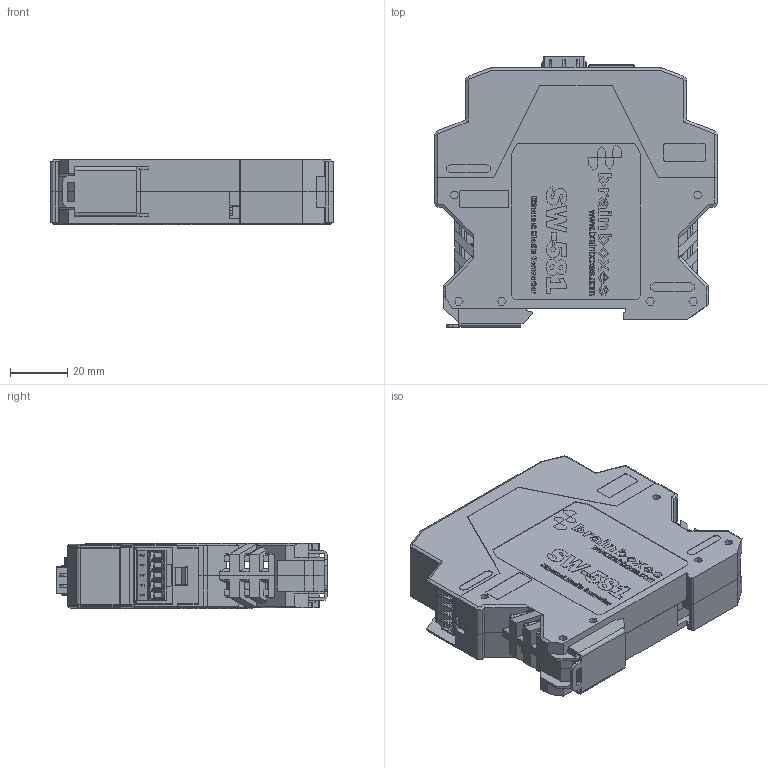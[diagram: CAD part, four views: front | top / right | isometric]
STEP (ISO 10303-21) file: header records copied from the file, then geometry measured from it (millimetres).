
FILE_DESCRIPTION(('FreeCAD Model'),'2;1');
FILE_NAME('Open CASCADE Shape Model','2023-06-14T15:41:38',('Author'),( ''),'Open CASCADE STEP processor 7.6','FreeCAD','Unknown');
FILE_SCHEMA(('AUTOMOTIVE_DESIGN { 1 0 10303 214 1 1 1 1 }'));
Products named in the file (1): For Colour SW-581 Cased
Bounding box: 99 x 94.85 x 22.8 mm (x, y, z)
Volume: 58385.5 mm3; surface area: 89719.3 mm2
Topology: 223 solids, 243 shells, 7848 faces, 21721 edges, 14291 vertices
Faces by surface type: plane 5830, cylinder 1061, bspline 815, extrusion 51, cone 44, torus 33, sphere 10, revolution 4
Full cylindrical faces by diameter (mm): 1 x1, 2 x1, 3.81 x1
Entity records: 316901 total; most frequent: CARTESIAN_POINT 61460, ORIENTED_EDGE 43406, DIRECTION 37509, EDGE_CURVE 21703, VECTOR 17575, LINE 17524, VERTEX_POINT 14291, AXIS2_PLACEMENT_3D 9965
